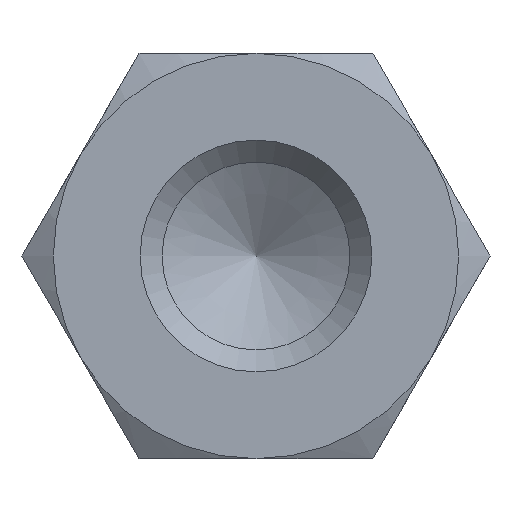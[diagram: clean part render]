
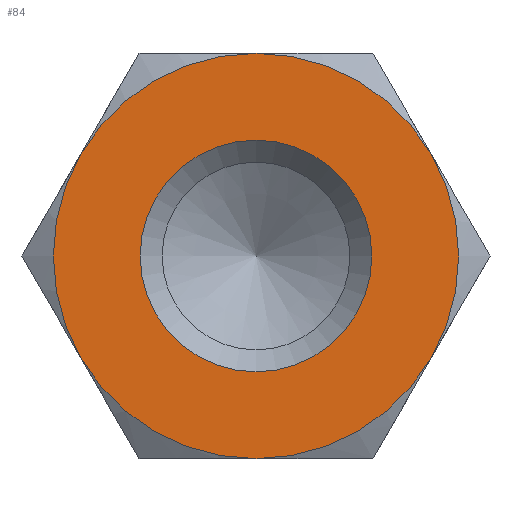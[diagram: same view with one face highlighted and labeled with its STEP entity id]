
A CAD part, left-side view. The second image highlights one B-rep face of the part: STEP entity #84.
In plain terms, the highlighted planar face has unit normal (-1, 0, 0).
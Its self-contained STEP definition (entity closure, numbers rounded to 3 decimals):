
#84 = ADVANCED_FACE( '', ( #120, #121 ), #122, .F. );
#120 = FACE_OUTER_BOUND( '', #179, .T. );
#121 = FACE_BOUND( '', #180, .T. );
#122 = PLANE( '', #181 );
#179 = EDGE_LOOP( '', ( #289, #290, #291, #292, #293, #294 ) );
#180 = EDGE_LOOP( '', ( #295 ) );
#181 = AXIS2_PLACEMENT_3D( '', #296, #297, #298 );
#289 = ORIENTED_EDGE( '', *, *, #424, .F. );
#290 = ORIENTED_EDGE( '', *, *, #423, .F. );
#291 = ORIENTED_EDGE( '', *, *, #426, .F. );
#292 = ORIENTED_EDGE( '', *, *, #425, .F. );
#293 = ORIENTED_EDGE( '', *, *, #427, .F. );
#294 = ORIENTED_EDGE( '', *, *, #428, .F. );
#295 = ORIENTED_EDGE( '', *, *, #429, .T. );
#296 = CARTESIAN_POINT( '', ( -10., 0., 0. ) );
#297 = DIRECTION( '', ( 1., 0., 0. ) );
#298 = DIRECTION( '', ( 0., 0., -1. ) );
#423 = EDGE_CURVE( '', #489, #481, #495, .T. );
#424 = EDGE_CURVE( '', #481, #469, #496, .T. );
#425 = EDGE_CURVE( '', #457, #445, #497, .T. );
#426 = EDGE_CURVE( '', #445, #489, #498, .T. );
#427 = EDGE_CURVE( '', #499, #457, #500, .T. );
#428 = EDGE_CURVE( '', #469, #499, #501, .T. );
#429 = EDGE_CURVE( '', #502, #502, #503, .T. );
#445 = VERTEX_POINT( '', #523 );
#457 = VERTEX_POINT( '', #553 );
#469 = VERTEX_POINT( '', #587 );
#481 = VERTEX_POINT( '', #617 );
#489 = VERTEX_POINT( '', #642 );
#495 = CIRCLE( '', #668, 3.5 );
#496 = CIRCLE( '', #669, 3.5 );
#497 = CIRCLE( '', #670, 3.5 );
#498 = CIRCLE( '', #671, 3.5 );
#499 = VERTEX_POINT( '', #672 );
#500 = CIRCLE( '', #673, 3.5 );
#501 = CIRCLE( '', #674, 3.5 );
#502 = VERTEX_POINT( '', #675 );
#503 = CIRCLE( '', #676, 2. );
#523 = CARTESIAN_POINT( '', ( -10., -3.031, -1.75 ) );
#553 = CARTESIAN_POINT( '', ( -10., -3.031, 1.75 ) );
#587 = CARTESIAN_POINT( '', ( -10., 3.031, 1.75 ) );
#617 = CARTESIAN_POINT( '', ( -10., 3.031, -1.75 ) );
#642 = CARTESIAN_POINT( '', ( -10., 0., -3.5 ) );
#668 = AXIS2_PLACEMENT_3D( '', #719, #720, #721 );
#669 = AXIS2_PLACEMENT_3D( '', #722, #723, #724 );
#670 = AXIS2_PLACEMENT_3D( '', #725, #726, #727 );
#671 = AXIS2_PLACEMENT_3D( '', #728, #729, #730 );
#672 = CARTESIAN_POINT( '', ( -10., 0., 3.5 ) );
#673 = AXIS2_PLACEMENT_3D( '', #731, #732, #733 );
#674 = AXIS2_PLACEMENT_3D( '', #734, #735, #736 );
#675 = CARTESIAN_POINT( '', ( -10., 2., 0. ) );
#676 = AXIS2_PLACEMENT_3D( '', #737, #738, #739 );
#719 = CARTESIAN_POINT( '', ( -10., 0., 0. ) );
#720 = DIRECTION( '', ( 1., 0., 0. ) );
#721 = DIRECTION( '', ( 0., 0., -1. ) );
#722 = CARTESIAN_POINT( '', ( -10., 0., 0. ) );
#723 = DIRECTION( '', ( 1., 0., 0. ) );
#724 = DIRECTION( '', ( 0., 0., -1. ) );
#725 = CARTESIAN_POINT( '', ( -10., 0., 0. ) );
#726 = DIRECTION( '', ( 1., 0., 0. ) );
#727 = DIRECTION( '', ( 0., 0., -1. ) );
#728 = CARTESIAN_POINT( '', ( -10., 0., 0. ) );
#729 = DIRECTION( '', ( 1., 0., 0. ) );
#730 = DIRECTION( '', ( 0., 0., -1. ) );
#731 = CARTESIAN_POINT( '', ( -10., 0., 0. ) );
#732 = DIRECTION( '', ( 1., 0., 0. ) );
#733 = DIRECTION( '', ( 0., 0., -1. ) );
#734 = CARTESIAN_POINT( '', ( -10., 0., 0. ) );
#735 = DIRECTION( '', ( 1., 0., 0. ) );
#736 = DIRECTION( '', ( 0., 0., -1. ) );
#737 = CARTESIAN_POINT( '', ( -10., 0., 0. ) );
#738 = DIRECTION( '', ( 1., 0., 0. ) );
#739 = DIRECTION( '', ( 0., 1., 0. ) );
